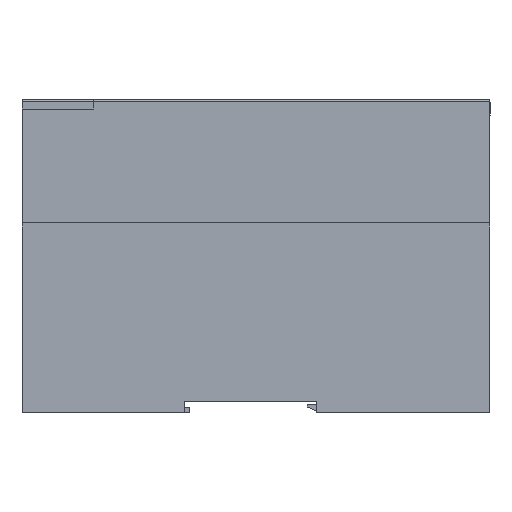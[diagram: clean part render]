
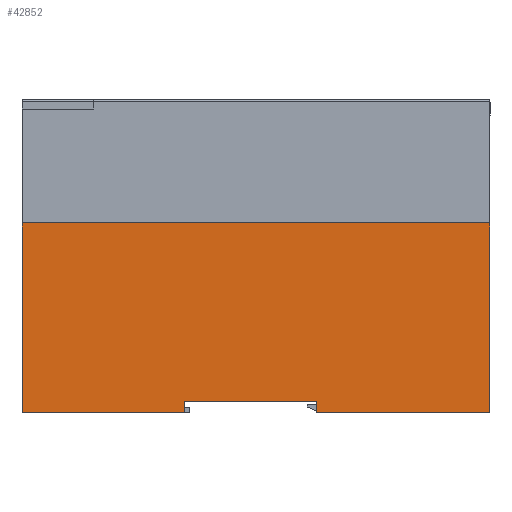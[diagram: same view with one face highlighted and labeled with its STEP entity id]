
A CAD part, left-side view. The second image highlights one B-rep face of the part: STEP entity #42852.
In plain terms, the highlighted planar face has unit normal (-1, 0, 0).
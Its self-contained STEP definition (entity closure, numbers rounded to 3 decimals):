
#7157 = VECTOR ( 'NONE', #363055, 1000. ) ;
#9379 = DIRECTION ( 'NONE',  ( 1., 0., 0. ) ) ;
#14715 = CARTESIAN_POINT ( 'NONE',  ( -41., 46., 0. ) ) ;
#19326 = VECTOR ( 'NONE', #365861, 1000. ) ;
#19740 = DIRECTION ( 'NONE',  ( 0., 0., -1. ) ) ;
#25441 = ORIENTED_EDGE ( 'NONE', *, *, #76733, .F. ) ;
#26944 = VECTOR ( 'NONE', #308480, 1000. ) ;
#31388 = CARTESIAN_POINT ( 'NONE',  ( -41., 46., 3. ) ) ;
#38118 = CARTESIAN_POINT ( 'NONE',  ( -41., 0., 83. ) ) ;
#38801 = ORIENTED_EDGE ( 'NONE', *, *, #44303, .F. ) ;
#42852 = ADVANCED_FACE ( 'NONE', ( #162231 ), #149429, .F. ) ;
#44303 = EDGE_CURVE ( 'NONE', #142630, #234502, #179074, .T. ) ;
#47543 = EDGE_CURVE ( 'NONE', #241321, #344228, #288789, .T. ) ;
#57683 = DIRECTION ( 'NONE',  ( 0., 1., 0. ) ) ;
#67846 = VECTOR ( 'NONE', #19740, 1000. ) ;
#76733 = EDGE_CURVE ( 'NONE', #234502, #135311, #193047, .T. ) ;
#78299 = CARTESIAN_POINT ( 'NONE',  ( -41., 0., 0. ) ) ;
#86320 = VECTOR ( 'NONE', #330226, 1000. ) ;
#91081 = LINE ( 'NONE', #78299, #247778 ) ;
#96600 = CARTESIAN_POINT ( 'NONE',  ( -41., 46., 3. ) ) ;
#97173 = LINE ( 'NONE', #285236, #106153 ) ;
#101456 = CARTESIAN_POINT ( 'NONE',  ( -41., 0., 0. ) ) ;
#104317 = CARTESIAN_POINT ( 'NONE',  ( -41., 81., 3. ) ) ;
#104746 = EDGE_CURVE ( 'NONE', #207909, #344228, #91081, .T. ) ;
#106153 = VECTOR ( 'NONE', #57683, 1000. ) ;
#122030 = AXIS2_PLACEMENT_3D ( 'NONE', #38118, #9379, #261916 ) ;
#130894 = EDGE_CURVE ( 'NONE', #142630, #207909, #332537, .T. ) ;
#135311 = VERTEX_POINT ( 'NONE', #257445 ) ;
#137265 = CARTESIAN_POINT ( 'NONE',  ( -41., 0., 83. ) ) ;
#142630 = VERTEX_POINT ( 'NONE', #165434 ) ;
#149429 = PLANE ( 'NONE',  #122030 ) ;
#157188 = CARTESIAN_POINT ( 'NONE',  ( -41., 0., 50.3 ) ) ;
#162231 = FACE_OUTER_BOUND ( 'NONE', #305479, .T. ) ;
#165434 = CARTESIAN_POINT ( 'NONE',  ( -41., 124., 50.3 ) ) ;
#166825 = ORIENTED_EDGE ( 'NONE', *, *, #250723, .F. ) ;
#173357 = ORIENTED_EDGE ( 'NONE', *, *, #104746, .T. ) ;
#179074 = LINE ( 'NONE', #157188, #26944 ) ;
#191728 = ORIENTED_EDGE ( 'NONE', *, *, #47543, .F. ) ;
#193047 = LINE ( 'NONE', #137265, #67846 ) ;
#196976 = DIRECTION ( 'NONE',  ( 0., -1., 0. ) ) ;
#207909 = VERTEX_POINT ( 'NONE', #324612 ) ;
#210223 = LINE ( 'NONE', #96600, #259312 ) ;
#234502 = VERTEX_POINT ( 'NONE', #255645 ) ;
#237831 = ORIENTED_EDGE ( 'NONE', *, *, #130894, .T. ) ;
#241321 = VERTEX_POINT ( 'NONE', #104317 ) ;
#247778 = VECTOR ( 'NONE', #196976, 1000. ) ;
#248356 = CARTESIAN_POINT ( 'NONE',  ( -41., 124., 83. ) ) ;
#250723 = EDGE_CURVE ( 'NONE', #321756, #241321, #97173, .T. ) ;
#255645 = CARTESIAN_POINT ( 'NONE',  ( -41., 0., 50.3 ) ) ;
#257445 = CARTESIAN_POINT ( 'NONE',  ( -41., 0., 0. ) ) ;
#259312 = VECTOR ( 'NONE', #297920, 1000. ) ;
#261916 = DIRECTION ( 'NONE',  ( 0., 0., -1. ) ) ;
#278680 = ORIENTED_EDGE ( 'NONE', *, *, #283682, .T. ) ;
#279900 = VERTEX_POINT ( 'NONE', #14715 ) ;
#283682 = EDGE_CURVE ( 'NONE', #279900, #135311, #309854, .T. ) ;
#284596 = CARTESIAN_POINT ( 'NONE',  ( -41., 81., 0. ) ) ;
#285236 = CARTESIAN_POINT ( 'NONE',  ( -41., 81., 3. ) ) ;
#287239 = ORIENTED_EDGE ( 'NONE', *, *, #297873, .T. ) ;
#288789 = LINE ( 'NONE', #360614, #7157 ) ;
#297873 = EDGE_CURVE ( 'NONE', #321756, #279900, #210223, .T. ) ;
#297920 = DIRECTION ( 'NONE',  ( 0., 0., -1. ) ) ;
#305479 = EDGE_LOOP ( 'NONE', ( #38801, #237831, #173357, #191728, #166825, #287239, #278680, #25441 ) ) ;
#308480 = DIRECTION ( 'NONE',  ( 0., -1., 0. ) ) ;
#309854 = LINE ( 'NONE', #101456, #86320 ) ;
#321756 = VERTEX_POINT ( 'NONE', #31388 ) ;
#324612 = CARTESIAN_POINT ( 'NONE',  ( -41., 124., 0. ) ) ;
#330226 = DIRECTION ( 'NONE',  ( 0., -1., 0. ) ) ;
#332537 = LINE ( 'NONE', #248356, #19326 ) ;
#344228 = VERTEX_POINT ( 'NONE', #284596 ) ;
#360614 = CARTESIAN_POINT ( 'NONE',  ( -41., 81., 3. ) ) ;
#363055 = DIRECTION ( 'NONE',  ( 0., 0., -1. ) ) ;
#365861 = DIRECTION ( 'NONE',  ( 0., 0., -1. ) ) ;
